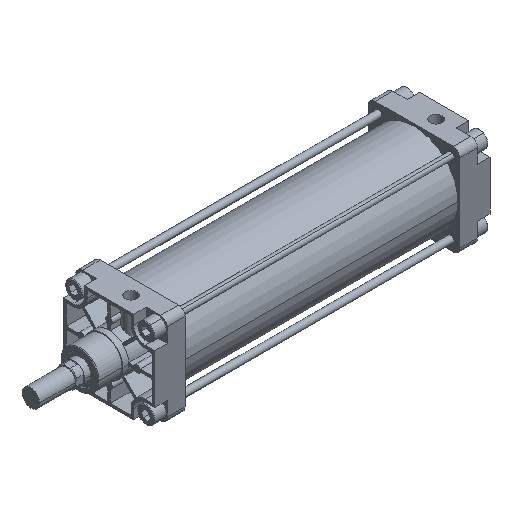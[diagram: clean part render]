
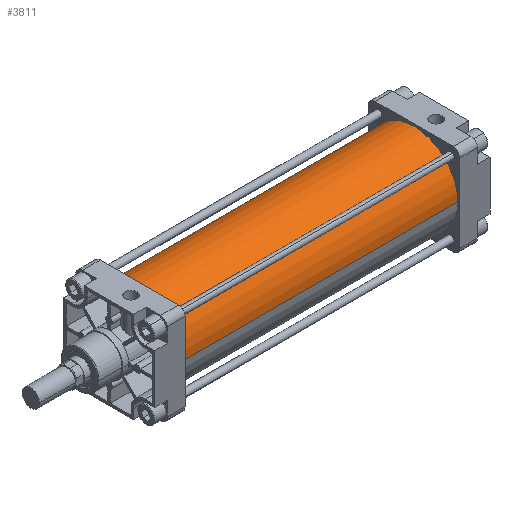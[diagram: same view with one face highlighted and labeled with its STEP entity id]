
A CAD part, isometric view. The second image highlights one B-rep face of the part: STEP entity #3811.
In plain terms, the highlighted cylindrical face has radius 66.5 mm (diameter 133 mm), a partial arc.
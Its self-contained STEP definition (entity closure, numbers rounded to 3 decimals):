
#3206=CARTESIAN_POINT('Vertex',(418.,-66.5,0.)) ;
#3208=CARTESIAN_POINT('Vertex',(418.,66.5,0.)) ;
#3211=CARTESIAN_POINT('Axis2P3D Location',(418.,0.,0.)) ;
#3781=CARTESIAN_POINT('Axis2P3D Location',(209.,0.,0.)) ;
#3786=CARTESIAN_POINT('Line Origine',(209.,66.5,0.)) ;
#3790=CARTESIAN_POINT('Vertex',(0.,66.5,0.)) ;
#3793=CARTESIAN_POINT('Axis2P3D Location',(0.,0.,0.)) ;
#3797=CARTESIAN_POINT('Vertex',(0.,-66.5,0.)) ;
#3800=CARTESIAN_POINT('Line Origine',(209.,-66.5,0.)) ;
#3212=DIRECTION('Axis2P3D Direction',(1.,0.,0.)) ;
#3782=DIRECTION('Axis2P3D Direction',(1.,0.,0.)) ;
#3783=DIRECTION('Axis2P3D XDirection',(0.,1.,0.)) ;
#3787=DIRECTION('Vector Direction',(1.,0.,0.)) ;
#3794=DIRECTION('Axis2P3D Direction',(1.,0.,0.)) ;
#3801=DIRECTION('Vector Direction',(1.,0.,0.)) ;
#3213=AXIS2_PLACEMENT_3D('Circle Axis2P3D',#3211,#3212,$) ;
#3784=AXIS2_PLACEMENT_3D('Cylinder Axis2P3D',#3781,#3782,#3783) ;
#3795=AXIS2_PLACEMENT_3D('Circle Axis2P3D',#3793,#3794,$) ;
#3806=ORIENTED_EDGE('',*,*,#3792,.F.) ;
#3807=ORIENTED_EDGE('',*,*,#3799,.T.) ;
#3808=ORIENTED_EDGE('',*,*,#3804,.T.) ;
#3809=ORIENTED_EDGE('',*,*,#3215,.F.) ;
#3788=VECTOR('Line Direction',#3787,1.) ;
#3802=VECTOR('Line Direction',#3801,1.) ;
#3811=ADVANCED_FACE('PartBody',(#3810),#3785,.T.) ;
#3214=CIRCLE('generated circle',#3213,66.5) ;
#3796=CIRCLE('generated circle',#3795,66.5) ;
#3785=CYLINDRICAL_SURFACE('generated cylinder',#3784,66.5) ;
#3215=EDGE_CURVE('',#3209,#3207,#3214,.T.) ;
#3792=EDGE_CURVE('',#3791,#3209,#3789,.T.) ;
#3799=EDGE_CURVE('',#3791,#3798,#3796,.T.) ;
#3804=EDGE_CURVE('',#3798,#3207,#3803,.T.) ;
#3805=EDGE_LOOP('',(#3806,#3807,#3808,#3809)) ;
#3810=FACE_OUTER_BOUND('',#3805,.T.) ;
#3789=LINE('Line',#3786,#3788) ;
#3803=LINE('Line',#3800,#3802) ;
#3207=VERTEX_POINT('',#3206) ;
#3209=VERTEX_POINT('',#3208) ;
#3791=VERTEX_POINT('',#3790) ;
#3798=VERTEX_POINT('',#3797) ;
